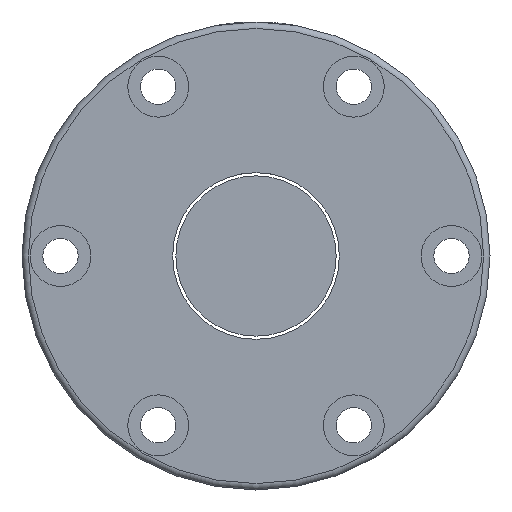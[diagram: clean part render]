
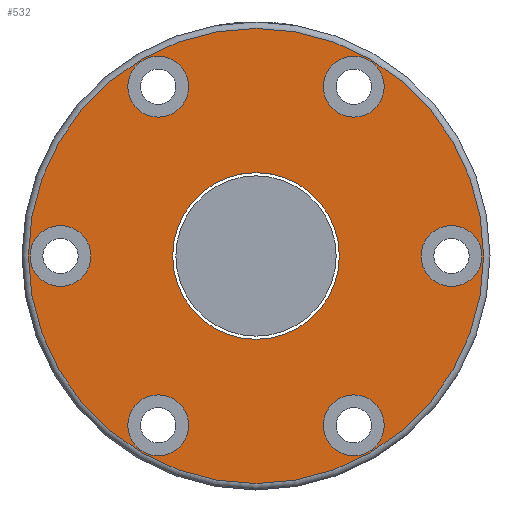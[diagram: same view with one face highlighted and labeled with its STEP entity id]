
A CAD part, left-side view. The second image highlights one B-rep face of the part: STEP entity #532.
In plain terms, the highlighted planar face has unit normal (-1, 0, 0).
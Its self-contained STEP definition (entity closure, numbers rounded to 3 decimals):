
#152=ORIENTED_EDGE('',*,*,#228,.T.);
#153=ORIENTED_EDGE('',*,*,#225,.F.);
#154=ORIENTED_EDGE('',*,*,#218,.T.);
#155=ORIENTED_EDGE('',*,*,#214,.T.);
#156=ORIENTED_EDGE('',*,*,#210,.T.);
#157=ORIENTED_EDGE('',*,*,#206,.T.);
#158=ORIENTED_EDGE('',*,*,#202,.T.);
#159=ORIENTED_EDGE('',*,*,#198,.T.);
#198=EDGE_CURVE('',#249,#249,#291,.T.);
#202=EDGE_CURVE('',#253,#253,#295,.T.);
#206=EDGE_CURVE('',#257,#257,#299,.T.);
#210=EDGE_CURVE('',#261,#261,#303,.T.);
#214=EDGE_CURVE('',#265,#265,#307,.T.);
#218=EDGE_CURVE('',#269,#269,#311,.T.);
#225=EDGE_CURVE('',#276,#276,#318,.T.);
#228=EDGE_CURVE('',#279,#279,#321,.T.);
#249=VERTEX_POINT('',#856);
#253=VERTEX_POINT('',#867);
#257=VERTEX_POINT('',#878);
#261=VERTEX_POINT('',#889);
#265=VERTEX_POINT('',#900);
#269=VERTEX_POINT('',#911);
#276=VERTEX_POINT('',#931);
#279=VERTEX_POINT('',#940);
#291=CIRCLE('',#581,4.75);
#295=CIRCLE('',#588,4.75);
#299=CIRCLE('',#595,4.75);
#303=CIRCLE('',#602,4.75);
#307=CIRCLE('',#609,4.75);
#311=CIRCLE('',#616,4.75);
#318=CIRCLE('',#629,35.5);
#321=CIRCLE('',#635,13.);
#387=EDGE_LOOP('',(#152));
#388=EDGE_LOOP('',(#153));
#389=EDGE_LOOP('',(#154));
#390=EDGE_LOOP('',(#155));
#391=EDGE_LOOP('',(#156));
#392=EDGE_LOOP('',(#157));
#393=EDGE_LOOP('',(#158));
#394=EDGE_LOOP('',(#159));
#470=FACE_BOUND('',#387,.T.);
#471=FACE_BOUND('',#388,.T.);
#472=FACE_BOUND('',#389,.T.);
#473=FACE_BOUND('',#390,.T.);
#474=FACE_BOUND('',#391,.T.);
#475=FACE_BOUND('',#392,.T.);
#476=FACE_BOUND('',#393,.T.);
#477=FACE_BOUND('',#394,.T.);
#500=PLANE('',#634);
#532=ADVANCED_FACE('',(#470,#471,#472,#473,#474,#475,#476,#477),#500,.F.);
#581=AXIS2_PLACEMENT_3D('',#855,#676,#677);
#588=AXIS2_PLACEMENT_3D('',#866,#690,#691);
#595=AXIS2_PLACEMENT_3D('',#877,#704,#705);
#602=AXIS2_PLACEMENT_3D('',#888,#718,#719);
#609=AXIS2_PLACEMENT_3D('',#899,#732,#733);
#616=AXIS2_PLACEMENT_3D('',#910,#746,#747);
#629=AXIS2_PLACEMENT_3D('',#930,#772,#773);
#634=AXIS2_PLACEMENT_3D('',#938,#782,#783);
#635=AXIS2_PLACEMENT_3D('',#939,#784,#785);
#676=DIRECTION('',(1.,0.,0.));
#677=DIRECTION('',(0.,0.866,-0.5));
#690=DIRECTION('',(1.,0.,0.));
#691=DIRECTION('',(0.,0.866,0.5));
#704=DIRECTION('',(1.,0.,0.));
#705=DIRECTION('',(0.,0.,1.));
#718=DIRECTION('',(1.,0.,0.));
#719=DIRECTION('',(0.,-0.866,0.5));
#732=DIRECTION('',(1.,0.,0.));
#733=DIRECTION('',(0.,-0.866,-0.5));
#746=DIRECTION('',(1.,0.,0.));
#747=DIRECTION('',(0.,0.,-1.));
#772=DIRECTION('',(1.,0.,0.));
#773=DIRECTION('',(0.,0.,-1.));
#782=DIRECTION('',(1.,0.,0.));
#783=DIRECTION('',(0.,0.,1.));
#784=DIRECTION('',(1.,0.,0.));
#785=DIRECTION('',(0.,0.,-1.));
#855=CARTESIAN_POINT('',(-55.,30.5,0.));
#856=CARTESIAN_POINT('',(-55.,34.614,-2.375));
#866=CARTESIAN_POINT('',(-55.,15.25,26.414));
#867=CARTESIAN_POINT('',(-55.,19.364,28.789));
#877=CARTESIAN_POINT('',(-55.,-15.25,26.414));
#878=CARTESIAN_POINT('',(-55.,-15.25,31.164));
#888=CARTESIAN_POINT('',(-55.,-30.5,0.));
#889=CARTESIAN_POINT('',(-55.,-34.614,2.375));
#899=CARTESIAN_POINT('',(-55.,-15.25,-26.414));
#900=CARTESIAN_POINT('',(-55.,-19.364,-28.789));
#910=CARTESIAN_POINT('',(-55.,15.25,-26.414));
#911=CARTESIAN_POINT('',(-55.,15.25,-31.164));
#930=CARTESIAN_POINT('',(-55.,0.,0.));
#931=CARTESIAN_POINT('',(-55.,0.,-35.5));
#938=CARTESIAN_POINT('',(-55.,0.,0.));
#939=CARTESIAN_POINT('',(-55.,0.,0.));
#940=CARTESIAN_POINT('',(-55.,0.,-13.));
